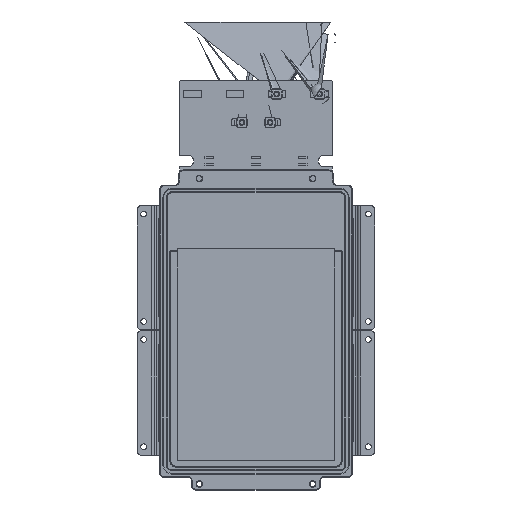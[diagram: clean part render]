
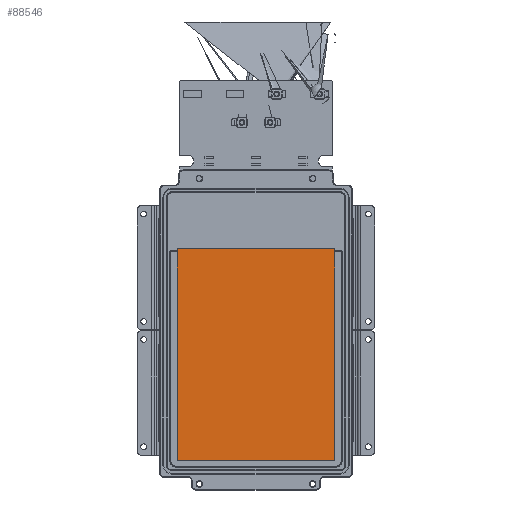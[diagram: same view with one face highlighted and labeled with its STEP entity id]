
A CAD part, front view. The second image highlights one B-rep face of the part: STEP entity #88546.
In plain terms, the highlighted planar face has unit normal (0, -1, 0).
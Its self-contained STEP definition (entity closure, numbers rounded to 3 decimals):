
#3891 = CARTESIAN_POINT ( 'NONE',  ( -89.5, -29.5, 96. ) ) ;
#5477 = DIRECTION ( 'NONE',  ( 0., 0., 1. ) ) ;
#6323 = CARTESIAN_POINT ( 'NONE',  ( -89.5, -29.5, -151. ) ) ;
#13952 = FACE_OUTER_BOUND ( 'NONE', #131138, .T. ) ;
#16323 = CARTESIAN_POINT ( 'NONE',  ( 93.5, -29.5, -151. ) ) ;
#23518 = LINE ( 'NONE', #106267, #85046 ) ;
#26336 = EDGE_CURVE ( 'NONE', #45866, #107649, #65821, .T. ) ;
#32304 = CARTESIAN_POINT ( 'NONE',  ( 93.5, -29.5, -151. ) ) ;
#32607 = ORIENTED_EDGE ( 'NONE', *, *, #43285, .F. ) ;
#32788 = VECTOR ( 'NONE', #5477, 1000. ) ;
#34299 = DIRECTION ( 'NONE',  ( 0., 1., 0. ) ) ;
#37495 = DIRECTION ( 'NONE',  ( 0., 0., 1. ) ) ;
#39106 = ORIENTED_EDGE ( 'NONE', *, *, #47072, .F. ) ;
#41164 = ORIENTED_EDGE ( 'NONE', *, *, #26336, .T. ) ;
#43124 = VECTOR ( 'NONE', #116696, 1000. ) ;
#43285 = EDGE_CURVE ( 'NONE', #56743, #107649, #96299, .T. ) ;
#45866 = VERTEX_POINT ( 'NONE', #16323 ) ;
#47072 = EDGE_CURVE ( 'NONE', #45866, #122627, #23518, .T. ) ;
#54703 = DIRECTION ( 'NONE',  ( -1., 0., 0. ) ) ;
#56743 = VERTEX_POINT ( 'NONE', #3891 ) ;
#62274 = VECTOR ( 'NONE', #37495, 1000. ) ;
#64130 = ORIENTED_EDGE ( 'NONE', *, *, #86564, .F. ) ;
#64799 = PLANE ( 'NONE',  #69148 ) ;
#65821 = LINE ( 'NONE', #107219, #32788 ) ;
#69148 = AXIS2_PLACEMENT_3D ( 'NONE', #32304, #34299, #94050 ) ;
#75274 = CARTESIAN_POINT ( 'NONE',  ( -89.5, -29.5, 96. ) ) ;
#85046 = VECTOR ( 'NONE', #54703, 1000. ) ;
#86564 = EDGE_CURVE ( 'NONE', #122627, #56743, #129811, .T. ) ;
#88546 = ADVANCED_FACE ( 'NONE', ( #13952 ), #64799, .F. ) ;
#94050 = DIRECTION ( 'NONE',  ( 0., 0., -1. ) ) ;
#96299 = LINE ( 'NONE', #75274, #43124 ) ;
#106267 = CARTESIAN_POINT ( 'NONE',  ( 93.5, -29.5, -151. ) ) ;
#107219 = CARTESIAN_POINT ( 'NONE',  ( 93.5, -29.5, -151. ) ) ;
#107649 = VERTEX_POINT ( 'NONE', #114828 ) ;
#114828 = CARTESIAN_POINT ( 'NONE',  ( 93.5, -29.5, 96. ) ) ;
#116696 = DIRECTION ( 'NONE',  ( 1., 0., 0. ) ) ;
#122627 = VERTEX_POINT ( 'NONE', #133396 ) ;
#129811 = LINE ( 'NONE', #6323, #62274 ) ;
#131138 = EDGE_LOOP ( 'NONE', ( #41164, #32607, #64130, #39106 ) ) ;
#133396 = CARTESIAN_POINT ( 'NONE',  ( -89.5, -29.5, -151. ) ) ;
